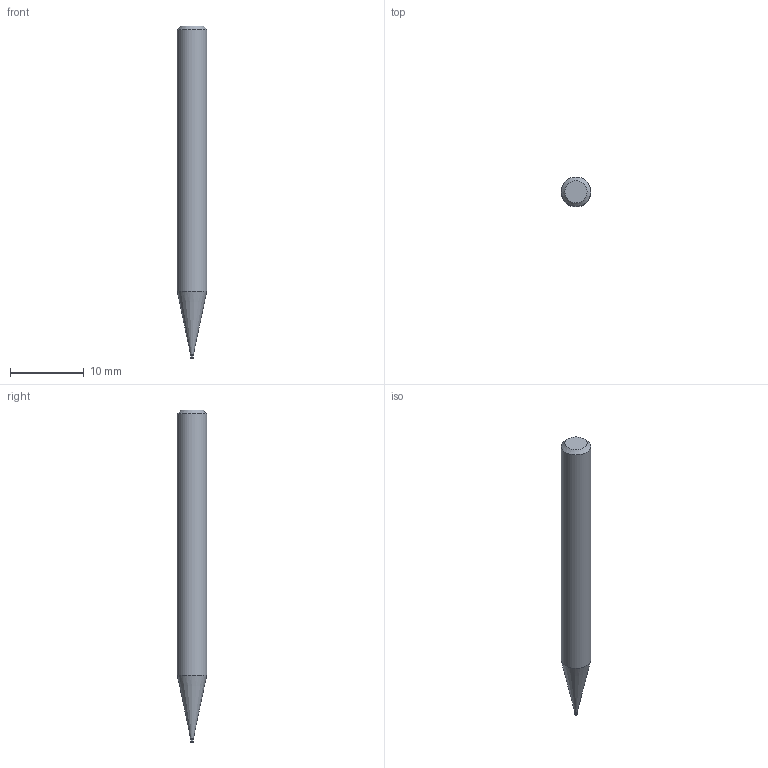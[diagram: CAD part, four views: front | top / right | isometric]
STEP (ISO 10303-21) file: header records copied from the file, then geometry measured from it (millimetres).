
FILE_DESCRIPTION((''),'2;1');
FILE_NAME('C:\Users\nsx150\AppData\Local\Temp\Mastercam 2021\CSMVKW3037\TEMP.step','2023-06-23T16:02:57',(''),(''),'STEP Write','Mastercam 2021 ... CNC Software, Inc.','');
FILE_SCHEMA(('AUTOMOTIVE_DESIGN'));
Length unit declared in the file: millimetre
Products named in the file (1): None
Bounding box: 4 x 4 x 45 mm (x, y, z)
Volume: 489.9 mm3; surface area: 521.3 mm2
Topology: 2 solids, 2 shells, 10 faces, 14 edges, 8 vertices
Faces by surface type: plane 4, cylinder 3, cone 2, torus 1
Full cylindrical faces by diameter (mm): 0.37 x1, 0.4 x1, 4 x1
Entity records: 232 total; most frequent: DIRECTION 40, CARTESIAN_POINT 28, AXIS2_PLACEMENT_3D 20, ORIENTED_EDGE 16, EDGE_LOOP 16, STYLED_ITEM 13, ADVANCED_FACE 10, FACE_BOUND 10
